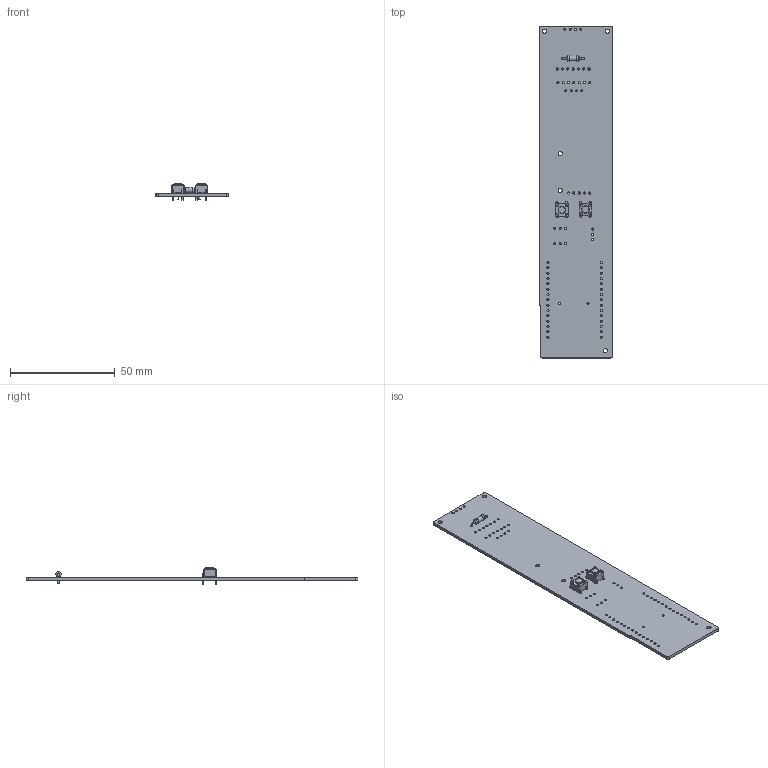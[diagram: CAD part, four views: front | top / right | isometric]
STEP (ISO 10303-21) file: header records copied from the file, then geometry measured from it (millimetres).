
FILE_DESCRIPTION(('KiCad electronic assembly'),'2;1');
FILE_NAME('Brolocator.step','2025-11-18T09:50:37',('Pcbnew'),('Kicad'), 'Open CASCADE STEP processor 7.8','KiCad to STEP converter','Unknown' );
FILE_SCHEMA(('AUTOMOTIVE_DESIGN { 1 0 10303 214 1 1 1 1 }'));
Length unit declared in the file: millimetre
Products named in the file (4): Brolocator 1; R_Axial_DIN0207_L6.3mm_D2.5mm_P10.16mm_Horizontal; SW_PUSH_6mm; Brolocator_PCB
Assembly tree (4 placements, depth 2):
  Brolocator 1
    R_Axial_DIN0207_L6.3mm_D2.5mm_P10.16mm_Horizontal
    SW_PUSH_6mm  x2
    Brolocator_PCB
Bounding box: 35 x 158.5 x 7.8 mm (x, y, z)
Volume: 8549.8 mm3; surface area: 12397.7 mm2
Topology: 4 solids, 4 shells, 322 faces, 860 edges, 560 vertices
Faces by surface type: cylinder 177, plane 139, torus 6
Full cylindrical faces by diameter (mm): 0.6 x4, 0.8 x2, 1 x16, 1.02 x60, 1.1 x8, 2 x5, 2.25 x1, 2.5 x2, 3.5 x2
Entity records: 8157 total; most frequent: DIRECTION 1303, CARTESIAN_POINT 1186, ORIENTED_EDGE 1166, EDGE_CURVE 583, AXIS2_PLACEMENT_3D 498, FACE_BOUND 392, EDGE_LOOP 392, VERTEX_POINT 381
